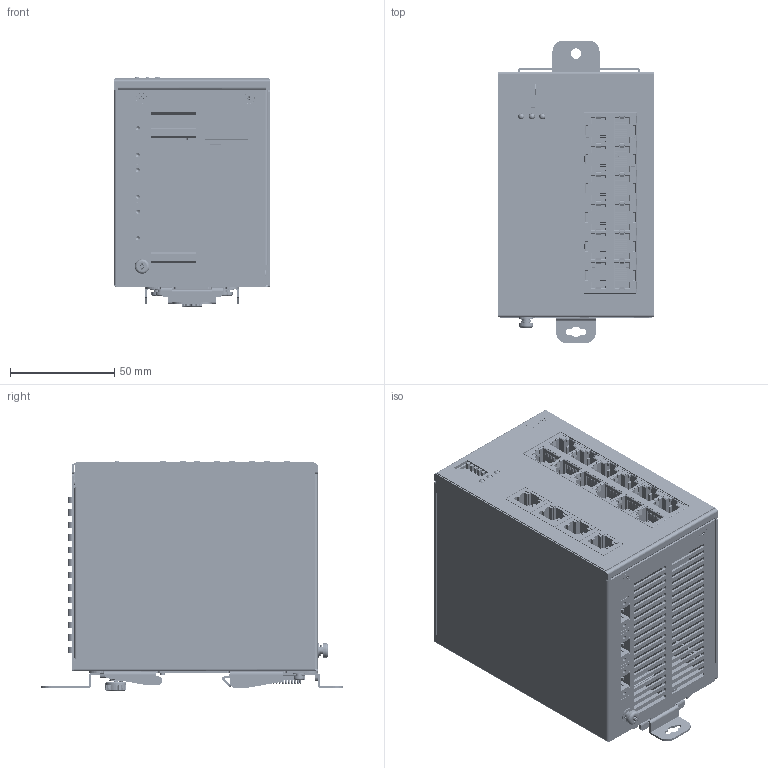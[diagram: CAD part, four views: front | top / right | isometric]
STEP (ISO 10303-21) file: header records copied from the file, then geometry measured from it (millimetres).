
FILE_DESCRIPTION((''),'2;1');
FILE_NAME('DVS-016W01_ASM','2014-12-08T',('ANDREW.AS.SUN'),(''),'PRO/ENGINEER BY PARAMETRIC TECHNOLOGY CORPORATION, 2010280','PRO/ENGINEER BY PARAMETRIC TECHNOLOGY CORPORATION, 2010280','');
FILE_SCHEMA(('CONFIG_CONTROL_DESIGN'));
Products named in the file (49): BASE-8P; COVER-8P; PANEL-8P; PCB-M-8P; STAND_OFF_30; MSD32_MALE; TB293; DIN-SWITCH-5PIN; 1X3_G-G; 307228297C-EM50188GF2NN46PF; PCB-M-8P_ASM; PCB-M-16P; MSD232_FEMALE; RJD5-20B; RJDX-512-1; SHANGDUAN1; SHANGDUAN2; SHANGDUAN3; SHANGDUAN4; SHANGDUAN5; SHANGDUAN6; SHANGDUAN7; SHANGDUAN8; RJDX-510-X1-D-1; RJD5-501; RJD101; UP_LED; UP_LED_LEFT; DOWN_LED; DOWN_LED_LEFT; DOWN_LED_LONG; DOWN_LED_LONG_LEFT; SHELL; 307229107C_RJ45_ASM; PCB-M-16P_ASM; NAMEPLATE; 3105460500; LOGO-2; STUD_M3_0-S; SCREW_M4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
Assembly tree (148 placements, depth 4):
  DVS-016W01_ASM
    BASE-8P
    COVER-8P
    PANEL-8P
    PCB-M-8P_ASM
      PCB-M-8P
      STAND_OFF_30  x4
      MSD32_MALE
      TB293  x3
      DIN-SWITCH-5PIN
      1X3_G-G
      307228297C-EM50188GF2NN46PF  x4
    PCB-M-16P_ASM
      PCB-M-16P
      MSD232_FEMALE
      307229107C_RJ45_ASM
        RJD5-20B
        RJDX-512-1  x6
        SHANGDUAN1  x6
        SHANGDUAN2  x6
        SHANGDUAN3  x6
        SHANGDUAN4  x6
        SHANGDUAN5  x6
        SHANGDUAN6  x6
        SHANGDUAN7  x6
        SHANGDUAN8  x6
        RJDX-510-X1-D-1  x6
        RJD5-501  x6
        RJD101  x6
        UP_LED  x6
        UP_LED_LEFT  x6
        DOWN_LED  x4
        DOWN_LED_LEFT  x3
        DOWN_LED_LONG  x2
        DOWN_LED_LONG_LEFT  x3
        SHELL
    NAMEPLATE
    3105460500  x10
    LOGO-2
    STUD_M3_0-S  x2
    SCREW_M4
    BACK_PLATE_2
    SNAP
    SPRING
    SNAP2_ASM
      SNAP_2
      46-111-501-1_20100903_
    3100320300-SCREW  x4
    STUD_M3_0  x2
Bounding box: 75 x 145.3 x 110.62 mm (x, y, z)
Volume: 150202.6 mm3; surface area: 289542.6 mm2
Topology: 150 solids, 174 shells, 15786 faces, 42749 edges, 27351 vertices
Faces by surface type: plane 12621, cylinder 2546, bspline 299, cone 150, torus 111, extrusion 53, sphere 6
Entity records: 312880 total; most frequent: CARTESIAN_POINT 73981, ORIENTED_EDGE 50564, DIRECTION 46941, EDGE_CURVE 25329, VECTOR 21161, LINE 21108, VERTEX_POINT 16090, AXIS2_PLACEMENT_3D 12890
